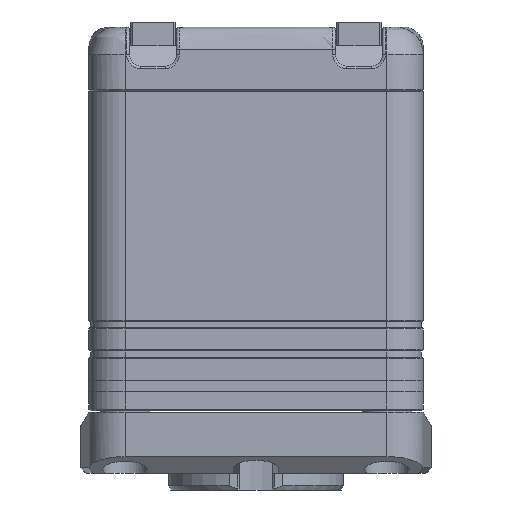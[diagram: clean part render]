
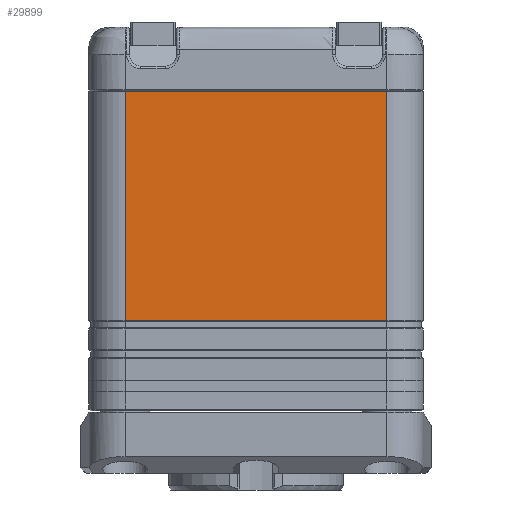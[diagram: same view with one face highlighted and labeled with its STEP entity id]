
A CAD part, left-side view. The second image highlights one B-rep face of the part: STEP entity #29899.
In plain terms, the highlighted planar face has unit normal (-1, 0, 0).
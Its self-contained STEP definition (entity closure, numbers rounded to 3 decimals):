
#1353=LINE('',#47963,#3735);
#2715=LINE('',#68120,#5097);
#2730=LINE('',#68163,#5112);
#2731=LINE('',#68165,#5113);
#3735=VECTOR('',#32953,10.);
#5097=VECTOR('',#35231,10.);
#5112=VECTOR('',#35282,10.);
#5113=VECTOR('',#35285,10.);
#7828=FACE_OUTER_BOUND('',#9648,.T.);
#9648=EDGE_LOOP('',(#26650,#26651,#26652,#26653));
#12484=VERTEX_POINT('',#47959);
#12486=VERTEX_POINT('',#47962);
#14138=VERTEX_POINT('',#68113);
#14141=VERTEX_POINT('',#68118);
#15878=EDGE_CURVE('',#12486,#12484,#1353,.T.);
#18351=EDGE_CURVE('',#14141,#14138,#2715,.T.);
#18374=EDGE_CURVE('',#14138,#12484,#2730,.T.);
#18375=EDGE_CURVE('',#14141,#12486,#2731,.T.);
#26650=ORIENTED_EDGE('',*,*,#18351,.F.);
#26651=ORIENTED_EDGE('',*,*,#18375,.T.);
#26652=ORIENTED_EDGE('',*,*,#15878,.T.);
#26653=ORIENTED_EDGE('',*,*,#18374,.F.);
#28234=PLANE('',#31115);
#29899=ADVANCED_FACE('',(#7828),#28234,.T.);
#31115=AXIS2_PLACEMENT_3D('',#68164,#35283,#35284);
#32953=DIRECTION('',(0.,1.,0.));
#35231=DIRECTION('',(0.,1.,0.));
#35282=DIRECTION('',(0.,0.,1.));
#35283=DIRECTION('center_axis',(-1.,0.,0.));
#35284=DIRECTION('ref_axis',(0.,0.,1.));
#35285=DIRECTION('',(0.,0.,1.));
#47959=CARTESIAN_POINT('',(-52.5,23.5,57.6));
#47962=CARTESIAN_POINT('',(-52.5,-23.5,57.6));
#47963=CARTESIAN_POINT('',(-52.5,23.5,57.6));
#68113=CARTESIAN_POINT('',(-52.5,23.5,16.4));
#68118=CARTESIAN_POINT('',(-52.5,-23.5,16.4));
#68120=CARTESIAN_POINT('',(-52.5,-11.75,16.4));
#68163=CARTESIAN_POINT('',(-52.5,23.5,0.));
#68164=CARTESIAN_POINT('Origin',(-52.5,-23.5,0.));
#68165=CARTESIAN_POINT('',(-52.5,-23.5,0.));
